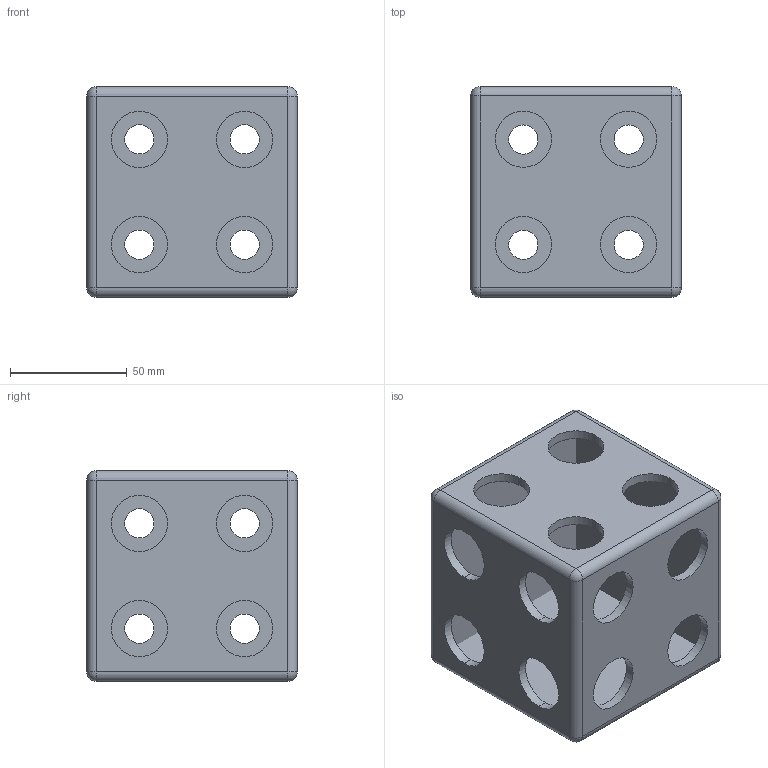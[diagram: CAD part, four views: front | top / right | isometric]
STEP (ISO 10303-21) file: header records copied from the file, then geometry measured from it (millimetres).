
FILE_DESCRIPTION (( 'STEP AP214' ), '1' );
FILE_NAME ('9090-3.STEP', '2020-06-22T06:17:47', ( '' ), ( '' ), 'SwSTEP 2.0', 'SolidWorks 2018', '' );
FILE_SCHEMA (( 'AUTOMOTIVE_DESIGN' ));
Length unit declared in the file: millimetre
Products named in the file (3): 9090-3.01; 9090-3.02; 9090-3
Assembly tree (6 placements, depth 2):
  9090-3
    9090-3.01  x3
    9090-3.02  x3
Bounding box: 90 x 90 x 90 mm (x, y, z)
Volume: 150823.4 mm3; surface area: 90421.4 mm2
Topology: 6 solids, 6 shells, 114 faces, 306 edges, 180 vertices
Faces by surface type: cylinder 78, sphere 24, plane 12
Entity records: 1332 total; most frequent: DIRECTION 248, CARTESIAN_POINT 201, ORIENTED_EDGE 188, AXIS2_PLACEMENT_3D 107, EDGE_CURVE 94, VERTEX_POINT 60, CIRCLE 60, EDGE_LOOP 56
